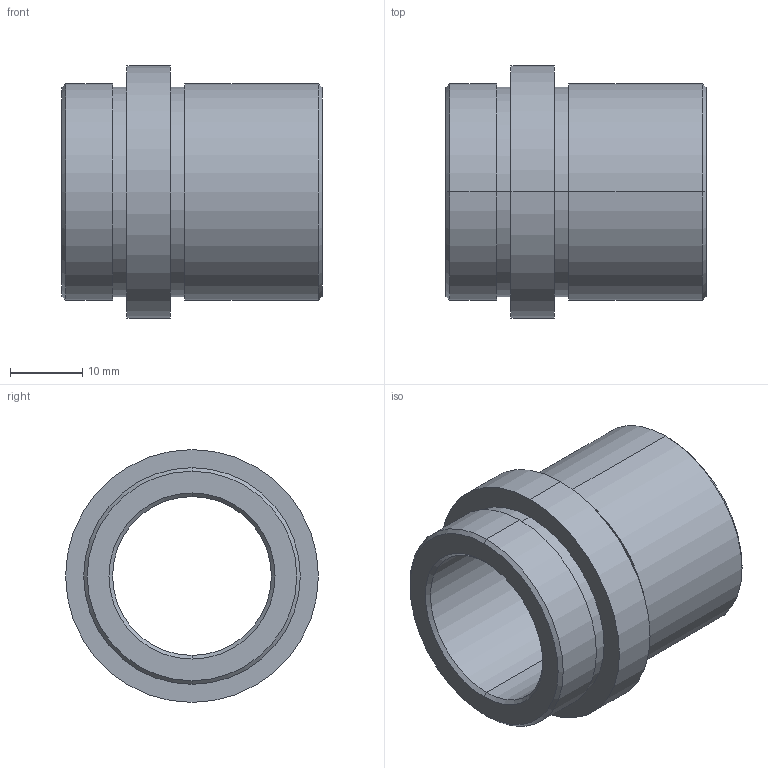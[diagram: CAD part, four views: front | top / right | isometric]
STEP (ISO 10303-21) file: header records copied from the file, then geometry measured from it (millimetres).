
FILE_DESCRIPTION( ( 'STEP AP203' ), '1' );
FILE_NAME( 'D:/Delta 3 D/D21/D21 - 22x27.step', '2002-12-31T22:45:04', ( ' ' ), ( ' ' ), 'XStep 1.0', ' ', ' ' );
FILE_SCHEMA( ( 'CONFIG_CONTROL_DESIGN' ) );
Length unit declared in the file: metre
Products named in the file (1): 1
Bounding box: 36 x 35 x 35 mm (x, y, z)
Volume: 13067.5 mm3; surface area: 7216.4 mm2
Topology: 1 solids, 1 shells, 26 faces, 52 edges, 32 vertices
Faces by surface type: revolution 20, bspline 6
Entity records: 773 total; most frequent: CARTESIAN_POINT 169, DIRECTION 106, ORIENTED_EDGE 104, EDGE_CURVE 52, AXIS2_PLACEMENT_3D 33, EDGE_LOOP 32, VERTEX_POINT 32, CIRCLE 32
